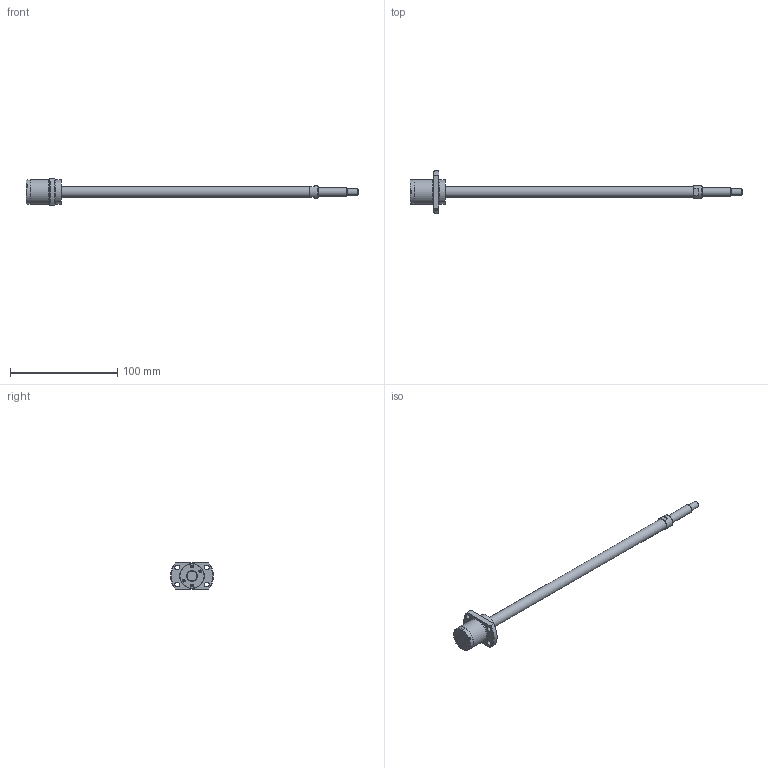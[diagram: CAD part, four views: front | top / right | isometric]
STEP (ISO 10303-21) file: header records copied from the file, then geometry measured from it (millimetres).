
FILE_DESCRIPTION( ( 'STEP AP203' ), '1' );
FILE_NAME( 'e:/temp/worker_93/temp/exporttempdir_5268_1128_8WVLv/format_0/SG1015-257R310C5A1X(0).stp', '2021-10-19T02:56:53', ( 'License CC BY-ND 4.0' ), ( 'CADENAS' ), ' ', 'PARTsolutions', ' ' );
FILE_SCHEMA( ( 'CONFIG_CONTROL_DESIGN' ) );
Length unit declared in the file: millimetre
Products named in the file (3): SG1015-257R310C5A1X(0); _SG1015-257R310C5A_shaft; _SG1015 C5_nut
Assembly tree (2 placements, depth 2):
  SG1015-257R310C5A1X(0)
    _SG1015-257R310C5A_shaft
    _SG1015 C5_nut
Bounding box: 310 x 40 x 25 mm (x, y, z)
Volume: 36395.2 mm3; surface area: 15219.6 mm2
Topology: 2 solids, 2 shells, 100 faces, 231 edges, 150 vertices
Faces by surface type: plane 63, cylinder 24, cone 12, torus 1
Full cylindrical faces by diameter (mm): 2.25 x4, 4.5 x4, 6 x1, 8 x1, 10 x2, 11.5 x1, 22.5 x3, 23 x2
Entity records: 2814 total; most frequent: CARTESIAN_POINT 477, DIRECTION 472, ORIENTED_EDGE 404, EDGE_CURVE 202, AXIS2_PLACEMENT_3D 175, EDGE_LOOP 152, VERTEX_POINT 148, LINE 122
